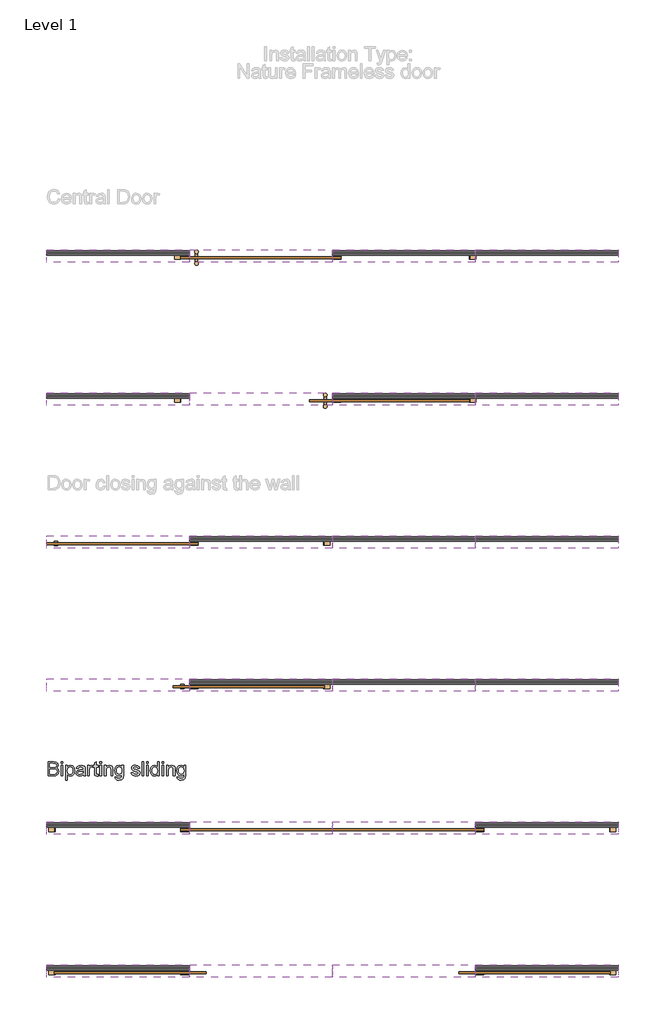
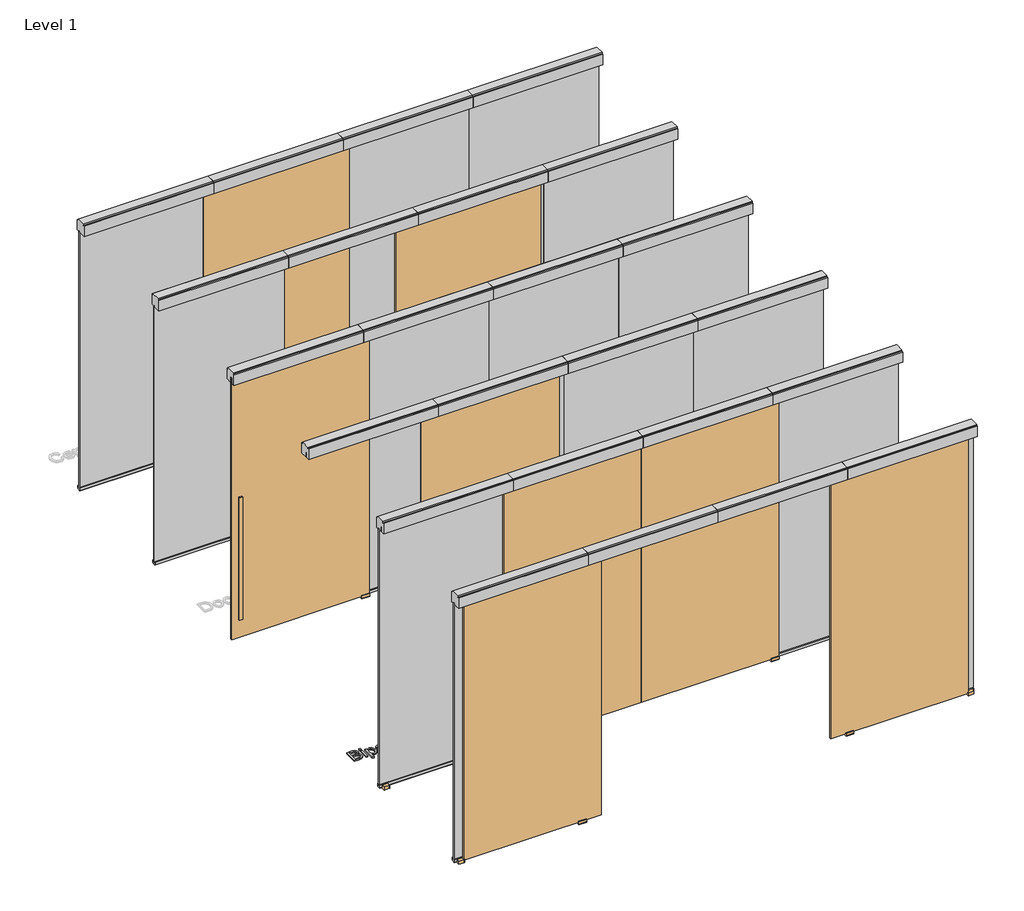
# One storey, part 1 of 3: 40 members, 16 plates, 8 doors, 1 proxy.
"""IFC4 building model written with IfcOpenShell, lengths in millimetres."""

from ifc_helpers import new_model, si_unit, origin, origin_with_axes, place, context, project, spatial, polyline, outline, extrude, transform, mapped, element, save
from components import sliding_door_9c017a84, sliding_door_46a8e8dc, sliding_door_2fb50057, sliding_door_c2c969da, sliding_door_ae4269e6, sliding_door_5c46f12c, sliding_door_cd3e74ab, sliding_door_913fe366, rectangular_mullion_f57d7881, rectangular_mullion_fa8072d7, rectangular_mullion_3a5f7653, rectangular_mullion_19e2d427, rectangular_mullion_22cbb824, rectangular_mullion_59f20ab0, rectangular_mullion_4657a7dc, rectangular_mullion_a82de65a, rectangular_mullion_c1fcce1e, rectangular_mullion_76ee8039, rectangular_mullion_a148459a, rectangular_mullion_7a5830f6, fixed_050bc72c, fixed_b180db11

model = new_model("IFC4")

# Units and contexts
model_context = context("Model", 3, world=origin())
ifc_project = project(units=[si_unit("LENGTHUNIT", "METRE", prefix="MILLI")], contexts=[model_context])

# Site, building, storey
site = spatial("IfcSite", under=ifc_project)
building = spatial("IfcBuilding", under=site)
storey = spatial("IfcBuildingStorey", under=building, Name="Level 1", Elevation=0.0)

# Proxy
placement = place(None, origin())
element("IfcBuildingElementProxy", 1, Name="100mm Arial", ObjectType="100mm Arial", at=placement, inside=storey, context=model_context, shape_type="SweptSolid", body=[
    extrude(outline(polyline([(-5984.3212144, -1777.2728011), (-5984.3212144, -1676.816491), (-5945.9879105, -1676.816491), (-5927.2136661, -1679.7718097), (-5916.1281553, -1688.8584949), (-5912.1182415, -1701.7098393), (-5915.4904931, -1713.4452749), (-5925.6808244, -1722.3357565), (-5913.3077266, -1731.7044846), (-5908.9789818, -1747.3272067), (-5911.9343005, -1760.8284759), (-5919.2551522, -1770.4424587), (-5930.1812475, -1775.5437557), (-5946.2822161, -1777.2728011), (-5984.3212144, -1777.2728011)]), holes=[polyline([(-5971.7641757, -1717.626867), (-5948.8328646, -1717.626867), (-5935.44196, -1716.5477464), (-5927.3853443, -1711.9001706), (-5924.6752803, -1703.7209275), (-5927.2014033, -1695.5294218), (-5934.4364159, -1690.6856422), (-5950.5741727, -1689.3735297), (-5971.7641757, -1689.3735297), (-5971.7641757, -1717.626867)]), polyline([(-5971.7641757, -1764.7157623), (-5946.012436, -1764.7157623), (-5936.6927588, -1764.225253), (-5928.8078214, -1761.4906635), (-5923.583897, -1755.9111199), (-5921.5360206, -1747.449834), (-5923.9395163, -1737.6886984), (-5931.7263519, -1731.8639002), (-5947.2387093, -1730.1839057), (-5971.7641757, -1730.1839057), (-5971.7641757, -1764.7157623)])]), origin_with_axes(), (0.0, 0.0, 1.0), 10.0),
    extrude(outline(polyline([(-5893.2826834, -1689.3735297), (-5893.2826834, -1676.816491), (-5880.7256446, -1676.816491), (-5880.7256446, -1689.3735297), (-5893.2826834, -1689.3735297)])), origin_with_axes(), (0.0, 0.0, 1.0), 10.0),
    extrude(outline(polyline([(-5893.2826834, -1777.2728011), (-5893.2826834, -1703.5001983), (-5880.7256446, -1703.5001983), (-5880.7256446, -1777.2728011), (-5893.2826834, -1777.2728011)])), origin_with_axes(), (0.0, 0.0, 1.0), 10.0),
    extrude(outline(polyline([(-5861.8900864, -1805.5261383), (-5861.8900864, -1703.5001983), (-5849.3330477, -1703.5001983), (-5849.3330477, -1715.8119824), (-5840.6510326, -1705.400922), (-5828.9278597, -1701.9305685), (-5813.010832, -1706.7866108), (-5802.6120343, -1720.4718211), (-5799.1048926, -1739.822414), (-5803.0657554, -1760.1662883), (-5814.5681991, -1774.0231768), (-5830.4484386, -1778.842431), (-5841.3745338, -1775.6173321), (-5849.3330477, -1767.4626146), (-5849.3330477, -1805.5261383), (-5861.8900864, -1805.5261383)]), holes=[polyline([(-5849.3330477, -1740.9751109), (-5847.97495, -1752.2323), (-5843.9006569, -1760.1049747), (-5837.8888519, -1764.7402878), (-5830.7182187, -1766.2853922), (-5823.4310895, -1764.6851055), (-5817.2660004, -1759.8842455), (-5813.0629486, -1751.7233965), (-5811.6619314, -1740.0431432), (-5813.0292261, -1728.8472678), (-5817.1311104, -1720.8642285), (-5823.1337183, -1716.0817626), (-5830.2031839, -1714.4876073), (-5837.3002407, -1716.1829301), (-5843.5327749, -1721.2688987), (-5847.8829795, -1729.5860975), (-5849.3330477, -1740.9751109)])]), origin_with_axes(), (0.0, 0.0, 1.0), 10.0),
    extrude(outline(polyline([(-5737.8893286, -1767.855022), (-5750.0662226, -1776.3653589), (-5763.5184409, -1778.842431), (-5774.0122748, -1777.3525089), (-5781.7531252, -1772.8827426), (-5786.526394, -1766.0953198), (-5788.1174837, -1757.652428), (-5785.713988, -1747.7196142), (-5779.3986804, -1740.5091271), (-5770.6063007, -1736.3888487), (-5759.7415191, -1734.5003878), (-5737.962905, -1730.1839057), (-5737.8893286, -1727.3880026), (-5741.3474194, -1718.1173763), (-5755.2288333, -1714.4876073), (-5767.9330249, -1716.9033657), (-5773.9908151, -1725.4750162), (-5786.5478538, -1723.9053863), (-5781.115463, -1711.6426532), (-5770.177105, -1704.4566915), (-5753.6101525, -1701.9305685), (-5738.3921007, -1704.1623859), (-5729.7959247, -1709.766455), (-5725.9454265, -1718.2890546), (-5725.3322898, -1729.2764635), (-5725.3322898, -1744.8991855), (-5724.6946277, -1766.7145878), (-5722.1930301, -1777.2728011), (-5734.7500689, -1777.2728011), (-5737.8893286, -1767.855022)]), holes=[polyline([(-5737.8893286, -1742.7409445), (-5758.1473638, -1746.5914427), (-5768.9508317, -1748.6270564), (-5773.8436623, -1751.9379944), (-5775.5604449, -1756.7695112), (-5771.8203113, -1763.5630654), (-5760.8451651, -1766.2853922), (-5748.1409735, -1763.2810226), (-5739.9494678, -1756.0092218), (-5737.962905, -1746.2971371), (-5737.8893286, -1742.7409445)])]), origin_with_axes(), (0.0, 0.0, 1.0), 10.0),
    extrude(outline(polyline([(-5634.2937588, -1766.800427), (-5632.7241289, -1777.6406831), (-5642.1173825, -1778.842431), (-5652.6388076, -1776.7577663), (-5657.8872574, -1771.2885873), (-5659.4078363, -1757.0392914), (-5659.4078363, -1716.0572371), (-5668.8256154, -1716.0572371), (-5668.8256154, -1705.8055922), (-5668.8256154, -1703.5001983), (-5659.4078363, -1703.5001983), (-5659.4078363, -1685.5720824), (-5646.8507975, -1678.1899171), (-5646.8507975, -1703.5001983), (-5634.2937588, -1703.5001983), (-5634.2937588, -1716.0572371), (-5646.8507975, -1716.0572371), (-5646.8507975, -1756.6714094), (-5646.1886099, -1763.1461325), (-5644.0426316, -1765.4392636), (-5639.7629378, -1766.2853922), (-5634.2937588, -1766.800427)])), origin_with_axes(), (0.0, 0.0, 1.0), 10.0),
    extrude(outline(polyline([(-5708.0663615, -1777.2728011), (-5708.0663615, -1703.5001983), (-5697.0789526, -1703.5001983), (-5697.0789526, -1714.4140309), (-5689.2798543, -1704.3585897), (-5681.4317051, -1701.9305685), (-5668.8256154, -1705.8055922), (-5673.0194701, -1717.0627812), (-5681.848638, -1714.4876073), (-5688.9487605, -1716.9646794), (-5693.4737091, -1723.8318099), (-5695.5093228, -1738.4980388), (-5695.5093228, -1777.2728011), (-5708.0663615, -1777.2728011)])), origin_with_axes(), (0.0, 0.0, 1.0), 10.0),
    extrude(outline(polyline([(-5621.73672, -1689.3735297), (-5621.73672, -1676.816491), (-5609.1796812, -1676.816491), (-5609.1796812, -1689.3735297), (-5621.73672, -1689.3735297)])), origin_with_axes(), (0.0, 0.0, 1.0), 10.0),
    extrude(outline(polyline([(-5621.73672, -1777.2728011), (-5621.73672, -1703.5001983), (-5609.1796812, -1703.5001983), (-5609.1796812, -1777.2728011), (-5621.73672, -1777.2728011)])), origin_with_axes(), (0.0, 0.0, 1.0), 10.0),
    extrude(outline(polyline([(-5590.3441231, -1777.2728011), (-5590.3441231, -1703.5001983), (-5577.7870843, -1703.5001983), (-5577.7870843, -1713.8008942), (-5568.1853642, -1704.8981499), (-5555.0765025, -1701.9305685), (-5543.2184395, -1704.3218015), (-5535.1250356, -1710.6003209), (-5531.3603765, -1719.8341589), (-5530.6981889, -1731.9742648), (-5530.6981889, -1777.2728011), (-5543.2552277, -1777.2728011), (-5543.2552277, -1733.6665219), (-5544.7022302, -1722.5564857), (-5549.8157899, -1716.6826365), (-5558.4364914, -1714.4876073), (-5572.0603879, -1719.417226), (-5576.3554102, -1726.5602681), (-5577.7870843, -1738.1301568), (-5577.7870843, -1777.2728011), (-5590.3441231, -1777.2728011)])), origin_with_axes(), (0.0, 0.0, 1.0), 10.0),
    extrude(outline(polyline([(-5516.5715203, -1783.5513205), (-5504.0144815, -1785.1209503), (-5499.9432541, -1791.7428263), (-5487.7540973, -1794.5387294), (-5474.902753, -1791.3749443), (-5468.7713864, -1782.4967254), (-5467.9129951, -1767.855022), (-5476.7544257, -1774.9183563), (-5487.5333682, -1777.2728011), (-5500.4797487, -1774.5320802), (-5510.1335854, -1766.3099177), (-5516.139259, -1754.2556509), (-5518.1411501, -1740.0186177), (-5514.5481693, -1720.5576602), (-5504.1493716, -1706.7866108), (-5488.1465048, -1701.9305685), (-5476.9444981, -1704.6774207), (-5467.9129951, -1712.9179774), (-5467.9129951, -1703.5001983), (-5455.3559563, -1703.5001983), (-5455.3559563, -1767.1928344), (-5458.7895216, -1791.5834107), (-5469.6665659, -1802.9264389), (-5487.999352, -1807.0957682), (-5499.682671, -1805.6273059), (-5508.8827866, -1801.221919), (-5514.7842269, -1793.8673448), (-5516.5715203, -1783.5513205)]), holes=[polyline([(-5505.5841114, -1739.1602264), (-5504.2444078, -1750.6779985), (-5500.225297, -1758.5966585), (-5494.1828352, -1763.1859864), (-5486.7730787, -1764.7157623), (-5479.4185045, -1763.1951834), (-5473.3453859, -1758.6334467), (-5469.2710928, -1750.8159543), (-5467.9129951, -1739.5281084), (-5469.3109467, -1728.641867), (-5473.5048014, -1720.8029149), (-5479.6668248, -1716.0664342), (-5486.9692824, -1714.4876073), (-5494.1399156, -1716.0419087), (-5500.1517206, -1720.704813), (-5504.2260137, -1728.4272692), (-5505.5841114, -1739.1602264)])]), origin_with_axes(), (0.0, 0.0, 1.0), 10.0),
    extrude(outline(polyline([(-5401.9885415, -1755.2979833), (-5389.4315028, -1753.7283534), (-5383.6189672, -1763.0480306), (-5370.301639, -1766.2853922), (-5357.4993456, -1763.3178108), (-5353.3300163, -1756.3525783), (-5357.5238711, -1750.7117211), (-5370.4487918, -1747.131003), (-5389.3579264, -1740.9873737), (-5397.6107458, -1733.8136747), (-5400.4189117, -1723.6846571), (-5398.1625688, -1714.3281917), (-5392.0066767, -1707.1790183), (-5384.0236374, -1703.4634101), (-5373.2201695, -1701.9305685), (-5357.940804, -1704.3953779), (-5348.2287193, -1711.0663047), (-5343.9122372, -1722.3357565), (-5356.469276, -1723.9053863), (-5361.1904283, -1716.9769421), (-5372.2391509, -1714.4876073), (-5384.2566294, -1716.8665775), (-5387.8618729, -1722.4093329), (-5386.3658195, -1726.0636274), (-5381.6814554, -1728.8350051), (-5370.8657247, -1731.5082809), (-5352.4348368, -1737.4189183), (-5343.875449, -1744.1143706), (-5340.7729775, -1755.0282031), (-5344.4150093, -1767.0456816), (-5354.9241716, -1775.7644849), (-5370.4733173, -1778.842431), (-5383.1345893, -1777.3586402), (-5392.3745587, -1772.9072681), (-5398.5427135, -1765.5373655), (-5401.9885415, -1755.2979833)])), origin_with_axes(), (0.0, 0.0, 1.0), 10.0),
    extrude(outline(polyline([(-5326.6463089, -1777.2728011), (-5326.6463089, -1676.816491), (-5314.0892702, -1676.816491), (-5314.0892702, -1777.2728011), (-5326.6463089, -1777.2728011)])), origin_with_axes(), (0.0, 0.0, 1.0), 10.0),
    extrude(outline(polyline([(-5295.253712, -1689.3735297), (-5295.253712, -1676.816491), (-5282.6966732, -1676.816491), (-5282.6966732, -1689.3735297), (-5295.253712, -1689.3735297)])), origin_with_axes(), (0.0, 0.0, 1.0), 10.0),
    extrude(outline(polyline([(-5295.253712, -1777.2728011), (-5295.253712, -1703.5001983), (-5282.6966732, -1703.5001983), (-5282.6966732, -1777.2728011), (-5295.253712, -1777.2728011)])), origin_with_axes(), (0.0, 0.0, 1.0), 10.0),
    extrude(outline(polyline([(-5218.3418495, -1777.2728011), (-5218.3418495, -1765.4270009), (-5226.6498513, -1775.4885734), (-5238.1339009, -1778.842431), (-5253.6830466, -1773.9863886), (-5264.6704555, -1760.4360685), (-5268.5700046, -1740.4600761), (-5264.9770238, -1720.4718211), (-5254.2103441, -1706.7130344), (-5238.1829518, -1701.9305685), (-5226.6069317, -1705.3518711), (-5218.3418495, -1714.2423526), (-5218.3418495, -1676.816491), (-5205.7848108, -1676.816491), (-5205.7848108, -1777.2728011), (-5218.3418495, -1777.2728011)]), holes=[polyline([(-5256.0129659, -1740.4110252), (-5254.5966202, -1751.7693818), (-5250.3475831, -1759.8474573), (-5244.173297, -1764.6759085), (-5236.981204, -1766.2853922), (-5229.7921766, -1764.7494849), (-5223.7742403, -1760.1417629), (-5219.6999472, -1752.3763871), (-5218.3418495, -1741.3675184), (-5219.7244727, -1729.3316458), (-5223.8723422, -1720.9868558), (-5230.0435627, -1716.1124194), (-5237.4962388, -1714.4876073), (-5244.7619082, -1716.0480401), (-5250.7154651, -1720.7293385), (-5254.6885907, -1728.7706257), (-5256.0129659, -1740.4110252)])]), origin_with_axes(), (0.0, 0.0, 1.0), 10.0),
    extrude(outline(polyline([(-5186.9492526, -1689.3735297), (-5186.9492526, -1676.816491), (-5174.3922139, -1676.816491), (-5174.3922139, -1689.3735297), (-5186.9492526, -1689.3735297)])), origin_with_axes(), (0.0, 0.0, 1.0), 10.0),
    extrude(outline(polyline([(-5186.9492526, -1777.2728011), (-5186.9492526, -1703.5001983), (-5174.3922139, -1703.5001983), (-5174.3922139, -1777.2728011), (-5186.9492526, -1777.2728011)])), origin_with_axes(), (0.0, 0.0, 1.0), 10.0),
    extrude(outline(polyline([(-5155.5566557, -1777.2728011), (-5155.5566557, -1703.5001983), (-5142.9996169, -1703.5001983), (-5142.9996169, -1713.8008942), (-5133.3978969, -1704.8981499), (-5120.2890351, -1701.9305685), (-5108.4309721, -1704.3218015), (-5100.3375682, -1710.6003209), (-5096.5729091, -1719.8341589), (-5095.9107216, -1731.9742648), (-5095.9107216, -1777.2728011), (-5108.4677603, -1777.2728011), (-5108.4677603, -1733.6665219), (-5109.9147628, -1722.5564857), (-5115.0283226, -1716.6826365), (-5123.649024, -1714.4876073), (-5137.2729205, -1719.417226), (-5141.5679428, -1726.5602681), (-5142.9996169, -1738.1301568), (-5142.9996169, -1777.2728011), (-5155.5566557, -1777.2728011)])), origin_with_axes(), (0.0, 0.0, 1.0), 10.0),
    extrude(outline(polyline([(-5081.7840529, -1783.5513205), (-5069.2270142, -1785.1209503), (-5065.1557868, -1791.7428263), (-5052.96663, -1794.5387294), (-5040.1152856, -1791.3749443), (-5033.983919, -1782.4967254), (-5033.1255277, -1767.855022), (-5041.9669583, -1774.9183563), (-5052.7459008, -1777.2728011), (-5065.6922813, -1774.5320802), (-5075.346118, -1766.3099177), (-5081.3517916, -1754.2556509), (-5083.3536828, -1740.0186177), (-5079.760702, -1720.5576602), (-5069.3619042, -1706.7866108), (-5053.3590374, -1701.9305685), (-5042.1570307, -1704.6774207), (-5033.1255277, -1712.9179774), (-5033.1255277, -1703.5001983), (-5020.5684889, -1703.5001983), (-5020.5684889, -1767.1928344), (-5024.0020542, -1791.5834107), (-5034.8790986, -1802.9264389), (-5053.2118846, -1807.0957682), (-5064.8952037, -1805.6273059), (-5074.0953192, -1801.221919), (-5079.9967596, -1793.8673448), (-5081.7840529, -1783.5513205)]), holes=[polyline([(-5070.796644, -1739.1602264), (-5069.4569404, -1750.6779985), (-5065.4378296, -1758.5966585), (-5059.3953678, -1763.1859864), (-5051.9856113, -1764.7157623), (-5044.6310371, -1763.1951834), (-5038.5579185, -1758.6334467), (-5034.4836254, -1750.8159543), (-5033.1255277, -1739.5281084), (-5034.5234793, -1728.641867), (-5038.717334, -1720.8029149), (-5044.8793575, -1716.0664342), (-5052.1818151, -1714.4876073), (-5059.3524483, -1716.0419087), (-5065.3642532, -1720.704813), (-5069.4385463, -1728.4272692), (-5070.796644, -1739.1602264)])]), origin_with_axes(), (0.0, 0.0, 1.0), 10.0),
])

# Doors
sliding_door_shape = sliding_door_9c017a84(model_context)
element("IfcDoor", 2, ObjectType="2019_EN_Panel_Klein_Nature_Single-Door : Sliding Door", at=placement, inside=storey, context=model_context, shape_type="MappedRepresentation", body=[
    mapped(sliding_door_shape, transform((-4495.3086233, 858.5464366, 0.0), x_axis=(1.0, 0.0, 0.0), y_axis=(0.0, 1.0, 0.0), z_axis=(0.0, 0.0, 1.0))),
])
sliding_door_2_shape = sliding_door_46a8e8dc(model_context)
element("IfcDoor", 3, ObjectType="2019_EN_Panel_Klein_Nature_Single-Door : Sliding Door", at=placement, inside=storey, context=model_context, shape_type="MappedRepresentation", body=[
    mapped(sliding_door_2_shape, transform((-5495.3086233, -141.4535634, 0.0), x_axis=(1.0, 0.0, 0.0), y_axis=(0.0, 1.0, 0.0), z_axis=(0.0, 0.0, 1.0))),
])
sliding_door_3_shape = sliding_door_2fb50057(model_context)
element("IfcDoor", 4, ObjectType="2019_EN_Panel_Klein_Nature_Single-Door : Sliding Door", at=placement, inside=storey, context=model_context, shape_type="MappedRepresentation", body=[
    mapped(sliding_door_3_shape, transform((-4495.3086233, -2141.4535634, 0.0), x_axis=(-1.0, 0.0, 0.0), y_axis=(0.0, -1.0, 0.0), z_axis=(0.0, 0.0, 1.0))),
])
sliding_door_4_shape = sliding_door_c2c969da(model_context)
element("IfcDoor", 5, ObjectType="2019_EN_Panel_Klein_Nature_Single-Door : Sliding Door", at=placement, inside=storey, context=model_context, shape_type="MappedRepresentation", body=[
    mapped(sliding_door_4_shape, transform((-3495.3086234, -2141.4535634, 0.0), x_axis=(1.0, 0.0, 0.0), y_axis=(0.0, 1.0, 0.0), z_axis=(0.0, 0.0, 1.0))),
])
sliding_door_5_shape = sliding_door_ae4269e6(model_context)
element("IfcDoor", 6, ObjectType="2019_EN_Panel_Klein_Nature_Single-Door : Sliding Door", at=placement, inside=storey, context=model_context, shape_type="MappedRepresentation", body=[
    mapped(sliding_door_5_shape, transform((-4495.3086233, 1858.5464366, 0.0), x_axis=(1.0, 0.0, 0.0), y_axis=(0.0, 1.0, 0.0), z_axis=(0.0, 0.0, 1.0))),
])
sliding_door_6_shape = sliding_door_5c46f12c(model_context)
element("IfcDoor", 7, ObjectType="2019_EN_Panel_Klein_Nature_Single-Door : Sliding Door", at=placement, inside=storey, context=model_context, shape_type="MappedRepresentation", body=[
    mapped(sliding_door_6_shape, transform((-5495.3086233, -1141.4535634, 0.0), x_axis=(1.0, 0.0, 0.0), y_axis=(0.0, 1.0, 0.0), z_axis=(0.0, 0.0, 1.0))),
])
sliding_door_7_shape = sliding_door_cd3e74ab(model_context)
element("IfcDoor", 8, ObjectType="2019_EN_Panel_Klein_Nature_Single-Door : Sliding Door", at=placement, inside=storey, context=model_context, shape_type="MappedRepresentation", body=[
    mapped(sliding_door_7_shape, transform((-4495.3086233, -3141.4535634, 0.0), x_axis=(-1.0, 0.0, 0.0), y_axis=(0.0, -1.0, 0.0), z_axis=(0.0, 0.0, 1.0))),
])
sliding_door_8_shape = sliding_door_913fe366(model_context)
element("IfcDoor", 9, ObjectType="2019_EN_Panel_Klein_Nature_Single-Door : Sliding Door", at=placement, inside=storey, context=model_context, shape_type="MappedRepresentation", body=[
    mapped(sliding_door_8_shape, transform((-3495.3086234, -3141.4535634, 0.0), x_axis=(1.0, 0.0, 0.0), y_axis=(0.0, 1.0, 0.0), z_axis=(0.0, 0.0, 1.0))),
])

# Members
rectangular_mullion_shape = rectangular_mullion_f57d7881(model_context)
element("IfcMember", 10, ObjectType="Rectangular Mullion : Klein_Nature_Profile-Top-Panel", at=placement, inside=storey, context=model_context, shape_type="MappedRepresentation", body=[
    mapped(rectangular_mullion_shape, transform((-5995.3086234, 858.5464366, 2200.0), x_axis=(0.0, 0.0, 1.0), y_axis=(0.0, 1.0, 0.0), z_axis=(-1.0, 0.0, 0.0))),
])
element("IfcMember", 11, ObjectType="Rectangular Mullion : Klein_Nature_Profile-Top-Panel", at=placement, inside=storey, context=model_context, shape_type="MappedRepresentation", body=[
    mapped(rectangular_mullion_shape, transform((-2995.3086235, 858.5464366, 2200.0), x_axis=(0.0, 0.0, 1.0), y_axis=(0.0, 1.0, 0.0), z_axis=(-1.0, 0.0, 0.0))),
])
element("IfcMember", 12, ObjectType="Rectangular Mullion : Klein_Nature_Profile-Top-Panel", at=placement, inside=storey, context=model_context, shape_type="MappedRepresentation", body=[
    mapped(rectangular_mullion_shape, transform((-5995.3086234, 1858.5464366, 2200.0), x_axis=(0.0, 0.0, 1.0), y_axis=(0.0, 1.0, 0.0), z_axis=(-1.0, 0.0, 0.0))),
])
element("IfcMember", 13, ObjectType="Rectangular Mullion : Klein_Nature_Profile-Top-Panel", at=placement, inside=storey, context=model_context, shape_type="MappedRepresentation", body=[
    mapped(rectangular_mullion_shape, transform((-2995.3086235, 1858.5464366, 2200.0), x_axis=(0.0, 0.0, 1.0), y_axis=(0.0, 1.0, 0.0), z_axis=(-1.0, 0.0, 0.0))),
])
rectangular_mullion_2_shape = rectangular_mullion_fa8072d7(model_context)
element("IfcMember", 14, ObjectType="Rectangular Mullion : Klein_Nature_Profile-Top-Pocket", at=placement, inside=storey, context=model_context, shape_type="MappedRepresentation", body=[
    mapped(rectangular_mullion_2_shape, transform((-3995.3086234, 858.5464366, 2200.0), x_axis=(0.0, 0.0, 1.0), y_axis=(0.0, 1.0, 0.0), z_axis=(-1.0, 0.0, 0.0))),
])
element("IfcMember", 15, ObjectType="Rectangular Mullion : Klein_Nature_Profile-Top-Pocket", at=placement, inside=storey, context=model_context, shape_type="MappedRepresentation", body=[
    mapped(rectangular_mullion_2_shape, transform((-3995.3086234, 1858.5464366, 2200.0), x_axis=(0.0, 0.0, 1.0), y_axis=(0.0, 1.0, 0.0), z_axis=(-1.0, 0.0, 0.0))),
])
rectangular_mullion_3_shape = rectangular_mullion_3a5f7653(model_context)
element("IfcMember", 16, ObjectType="Rectangular Mullion : Klein_Nature_Profile-Top-Door", at=placement, inside=storey, context=model_context, shape_type="MappedRepresentation", body=[
    mapped(rectangular_mullion_3_shape, transform((-4995.3086232, 858.5464366, 2200.0), x_axis=(0.0, 0.0, 1.0), y_axis=(0.0, 1.0, 0.0), z_axis=(-1.0, 0.0, 0.0))),
])
element("IfcMember", 17, ObjectType="Rectangular Mullion : Klein_Nature_Profile-Top-Door", at=placement, inside=storey, context=model_context, shape_type="MappedRepresentation", body=[
    mapped(rectangular_mullion_3_shape, transform((-4995.3086232, 1858.5464366, 2200.0), x_axis=(0.0, 0.0, 1.0), y_axis=(0.0, 1.0, 0.0), z_axis=(-1.0, 0.0, 0.0))),
])
rectangular_mullion_4_shape = rectangular_mullion_19e2d427(model_context)
element("IfcMember", 18, ObjectType="Rectangular Mullion : Klein_Nature_Profile-Bottom-Panel", at=placement, inside=storey, context=model_context, shape_type="MappedRepresentation", body=[
    mapped(rectangular_mullion_4_shape, transform((-1995.3086234, 858.5464366, 0.0), x_axis=(0.0, 0.0, -1.0), y_axis=(0.0, 1.0, 0.0), z_axis=(1.0, 0.0, 0.0))),
])
element("IfcMember", 19, ObjectType="Rectangular Mullion : Klein_Nature_Profile-Bottom-Panel", at=placement, inside=storey, context=model_context, shape_type="MappedRepresentation", body=[
    mapped(rectangular_mullion_4_shape, transform((-1995.3086234, 1858.5464366, 0.0), x_axis=(0.0, 0.0, -1.0), y_axis=(0.0, 1.0, 0.0), z_axis=(1.0, 0.0, 0.0))),
])
rectangular_mullion_5_shape = rectangular_mullion_22cbb824(model_context)
element("IfcMember", 20, ObjectType="Rectangular Mullion : Klein_Nature_Profile-Bottom-Panel", at=placement, inside=storey, context=model_context, shape_type="MappedRepresentation", body=[
    mapped(rectangular_mullion_5_shape, transform((-2995.3086235, 858.5464366, 0.0), x_axis=(0.0, 0.0, -1.0), y_axis=(0.0, 1.0, 0.0), z_axis=(1.0, 0.0, 0.0))),
])
element("IfcMember", 21, ObjectType="Rectangular Mullion : Klein_Nature_Profile-Bottom-Panel", at=placement, inside=storey, context=model_context, shape_type="MappedRepresentation", body=[
    mapped(rectangular_mullion_5_shape, transform((-2995.3086235, 1858.5464366, 0.0), x_axis=(0.0, 0.0, -1.0), y_axis=(0.0, 1.0, 0.0), z_axis=(1.0, 0.0, 0.0))),
])
element("IfcMember", 22, ObjectType="Rectangular Mullion : Klein_Nature_Profile-Bottom-Panel", at=placement, inside=storey, context=model_context, shape_type="MappedRepresentation", body=[
    mapped(rectangular_mullion_4_shape, transform((-4995.3086232, 858.5464366, 0.0), x_axis=(0.0, 0.0, -1.0), y_axis=(0.0, 1.0, 0.0), z_axis=(1.0, 0.0, 0.0))),
])
element("IfcMember", 23, ObjectType="Rectangular Mullion : Klein_Nature_Profile-Bottom-Panel", at=placement, inside=storey, context=model_context, shape_type="MappedRepresentation", body=[
    mapped(rectangular_mullion_4_shape, transform((-4995.3086232, 1858.5464366, 0.0), x_axis=(0.0, 0.0, -1.0), y_axis=(0.0, 1.0, 0.0), z_axis=(1.0, 0.0, 0.0))),
])
rectangular_mullion_6_shape = rectangular_mullion_59f20ab0(model_context)
element("IfcMember", 24, ObjectType="Rectangular Mullion : Klein_Nature_Profile-Top-Panel", at=placement, inside=storey, context=model_context, shape_type="MappedRepresentation", body=[
    mapped(rectangular_mullion_6_shape, transform((-1995.3086234, -141.4535634, 2200.0), x_axis=(0.0, 0.0, 1.0), y_axis=(0.0, -1.0, 0.0), z_axis=(1.0, 0.0, 0.0))),
])
element("IfcMember", 25, ObjectType="Rectangular Mullion : Klein_Nature_Profile-Top-Panel", at=placement, inside=storey, context=model_context, shape_type="MappedRepresentation", body=[
    mapped(rectangular_mullion_6_shape, transform((-1995.3086234, -1141.4535634, 2200.0), x_axis=(0.0, 0.0, 1.0), y_axis=(0.0, -1.0, 0.0), z_axis=(1.0, 0.0, 0.0))),
])
rectangular_mullion_7_shape = rectangular_mullion_4657a7dc(model_context)
element("IfcMember", 26, ObjectType="Rectangular Mullion : Klein_Nature_Profile-Top-Door", at=placement, inside=storey, context=model_context, shape_type="MappedRepresentation", body=[
    mapped(rectangular_mullion_7_shape, transform((-4995.3086232, -141.4535634, 2200.0), x_axis=(0.0, 0.0, 1.0), y_axis=(0.0, -1.0, 0.0), z_axis=(1.0, 0.0, 0.0))),
])
element("IfcMember", 27, ObjectType="Rectangular Mullion : Klein_Nature_Profile-Top-Door", at=placement, inside=storey, context=model_context, shape_type="MappedRepresentation", body=[
    mapped(rectangular_mullion_7_shape, transform((-4995.3086232, -1141.4535634, 2200.0), x_axis=(0.0, 0.0, 1.0), y_axis=(0.0, -1.0, 0.0), z_axis=(1.0, 0.0, 0.0))),
])
rectangular_mullion_8_shape = rectangular_mullion_a82de65a(model_context)
element("IfcMember", 28, ObjectType="Rectangular Mullion : Klein_Nature_Profile-Top-Pocket", at=placement, inside=storey, context=model_context, shape_type="MappedRepresentation", body=[
    mapped(rectangular_mullion_8_shape, transform((-3995.3086234, -141.4535634, 2200.0), x_axis=(0.0, 0.0, 1.0), y_axis=(0.0, -1.0, 0.0), z_axis=(1.0, 0.0, 0.0))),
])
element("IfcMember", 29, ObjectType="Rectangular Mullion : Klein_Nature_Profile-Top-Pocket", at=placement, inside=storey, context=model_context, shape_type="MappedRepresentation", body=[
    mapped(rectangular_mullion_8_shape, transform((-1995.3086234, -2141.4535634, 2200.0), x_axis=(0.0, 0.0, 1.0), y_axis=(0.0, -1.0, 0.0), z_axis=(1.0, 0.0, 0.0))),
])
element("IfcMember", 30, ObjectType="Rectangular Mullion : Klein_Nature_Profile-Top-Pocket", at=placement, inside=storey, context=model_context, shape_type="MappedRepresentation", body=[
    mapped(rectangular_mullion_8_shape, transform((-4995.3086232, -2141.4535634, 2200.0), x_axis=(0.0, 0.0, 1.0), y_axis=(0.0, -1.0, 0.0), z_axis=(1.0, 0.0, 0.0))),
])
element("IfcMember", 31, ObjectType="Rectangular Mullion : Klein_Nature_Profile-Top-Pocket", at=placement, inside=storey, context=model_context, shape_type="MappedRepresentation", body=[
    mapped(rectangular_mullion_8_shape, transform((-3995.3086234, -1141.4535634, 2200.0), x_axis=(0.0, 0.0, 1.0), y_axis=(0.0, -1.0, 0.0), z_axis=(1.0, 0.0, 0.0))),
])
element("IfcMember", 32, ObjectType="Rectangular Mullion : Klein_Nature_Profile-Top-Pocket", at=placement, inside=storey, context=model_context, shape_type="MappedRepresentation", body=[
    mapped(rectangular_mullion_8_shape, transform((-1995.3086234, -3141.4535634, 2200.0), x_axis=(0.0, 0.0, 1.0), y_axis=(0.0, -1.0, 0.0), z_axis=(1.0, 0.0, 0.0))),
])
element("IfcMember", 33, ObjectType="Rectangular Mullion : Klein_Nature_Profile-Top-Pocket", at=placement, inside=storey, context=model_context, shape_type="MappedRepresentation", body=[
    mapped(rectangular_mullion_8_shape, transform((-4995.3086232, -3141.4535634, 2200.0), x_axis=(0.0, 0.0, 1.0), y_axis=(0.0, -1.0, 0.0), z_axis=(1.0, 0.0, 0.0))),
])
rectangular_mullion_9_shape = rectangular_mullion_c1fcce1e(model_context)
element("IfcMember", 34, ObjectType="Rectangular Mullion : Klein_Nature_Profile-Top-Panel", at=placement, inside=storey, context=model_context, shape_type="MappedRepresentation", body=[
    mapped(rectangular_mullion_9_shape, transform((-2995.3086235, -141.4535634, 2200.0), x_axis=(0.0, 0.0, 1.0), y_axis=(0.0, -1.0, 0.0), z_axis=(1.0, 0.0, 0.0))),
])
element("IfcMember", 35, ObjectType="Rectangular Mullion : Klein_Nature_Profile-Top-Panel", at=placement, inside=storey, context=model_context, shape_type="MappedRepresentation", body=[
    mapped(rectangular_mullion_9_shape, transform((-2995.3086235, -1141.4535634, 2200.0), x_axis=(0.0, 0.0, 1.0), y_axis=(0.0, -1.0, 0.0), z_axis=(1.0, 0.0, 0.0))),
])
rectangular_mullion_10_shape = rectangular_mullion_76ee8039(model_context)
element("IfcMember", 36, ObjectType="Rectangular Mullion : Klein_Nature_Profile-Bottom-Panel", at=placement, inside=storey, context=model_context, shape_type="MappedRepresentation", body=[
    mapped(rectangular_mullion_10_shape, transform((-4995.3086232, -141.4535634, 0.0), x_axis=(0.0, 0.0, -1.0), y_axis=(0.0, -1.0, 0.0), z_axis=(-1.0, 0.0, 0.0))),
])
element("IfcMember", 37, ObjectType="Rectangular Mullion : Klein_Nature_Profile-Bottom-Panel", at=placement, inside=storey, context=model_context, shape_type="MappedRepresentation", body=[
    mapped(rectangular_mullion_10_shape, transform((-4995.3086232, -1141.4535634, 0.0), x_axis=(0.0, 0.0, -1.0), y_axis=(0.0, -1.0, 0.0), z_axis=(-1.0, 0.0, 0.0))),
])
element("IfcMember", 38, ObjectType="Rectangular Mullion : Klein_Nature_Profile-Bottom-Panel", at=placement, inside=storey, context=model_context, shape_type="MappedRepresentation", body=[
    mapped(rectangular_mullion_10_shape, transform((-3995.3086234, -141.4535634, 0.0), x_axis=(0.0, 0.0, -1.0), y_axis=(0.0, -1.0, 0.0), z_axis=(-1.0, 0.0, 0.0))),
])
element("IfcMember", 39, ObjectType="Rectangular Mullion : Klein_Nature_Profile-Bottom-Panel", at=placement, inside=storey, context=model_context, shape_type="MappedRepresentation", body=[
    mapped(rectangular_mullion_10_shape, transform((-3995.3086234, -1141.4535634, 0.0), x_axis=(0.0, 0.0, -1.0), y_axis=(0.0, -1.0, 0.0), z_axis=(-1.0, 0.0, 0.0))),
])
rectangular_mullion_11_shape = rectangular_mullion_a148459a(model_context)
element("IfcMember", 40, ObjectType="Rectangular Mullion : Klein_Nature_Profile-Bottom-Panel", at=placement, inside=storey, context=model_context, shape_type="MappedRepresentation", body=[
    mapped(rectangular_mullion_11_shape, transform((-2995.3086235, -141.4535634, 0.0), x_axis=(0.0, 0.0, -1.0), y_axis=(0.0, -1.0, 0.0), z_axis=(-1.0, 0.0, 0.0))),
])
element("IfcMember", 41, ObjectType="Rectangular Mullion : Klein_Nature_Profile-Bottom-Panel", at=placement, inside=storey, context=model_context, shape_type="MappedRepresentation", body=[
    mapped(rectangular_mullion_11_shape, transform((-2995.3086235, -1141.4535634, 0.0), x_axis=(0.0, 0.0, -1.0), y_axis=(0.0, -1.0, 0.0), z_axis=(-1.0, 0.0, 0.0))),
])
rectangular_mullion_12_shape = rectangular_mullion_7a5830f6(model_context)
element("IfcMember", 42, ObjectType="Rectangular Mullion : Klein_Nature_Profile-Top-Door", at=placement, inside=storey, context=model_context, shape_type="MappedRepresentation", body=[
    mapped(rectangular_mullion_12_shape, transform((-3995.3086234, -2141.4535634, 2200.0), x_axis=(0.0, 0.0, 1.0), y_axis=(0.0, -1.0, 0.0), z_axis=(1.0, 0.0, 0.0))),
])
element("IfcMember", 43, ObjectType="Rectangular Mullion : Klein_Nature_Profile-Top-Door", at=placement, inside=storey, context=model_context, shape_type="MappedRepresentation", body=[
    mapped(rectangular_mullion_12_shape, transform((-3995.3086234, -3141.4535634, 2200.0), x_axis=(0.0, 0.0, 1.0), y_axis=(0.0, -1.0, 0.0), z_axis=(1.0, 0.0, 0.0))),
])
element("IfcMember", 44, ObjectType="Rectangular Mullion : Klein_Nature_Profile-Top-Door", at=placement, inside=storey, context=model_context, shape_type="MappedRepresentation", body=[
    mapped(rectangular_mullion_12_shape, transform((-2995.3086235, -2141.4535634, 2200.0), x_axis=(0.0, 0.0, 1.0), y_axis=(0.0, -1.0, 0.0), z_axis=(1.0, 0.0, 0.0))),
])
element("IfcMember", 45, ObjectType="Rectangular Mullion : Klein_Nature_Profile-Top-Door", at=placement, inside=storey, context=model_context, shape_type="MappedRepresentation", body=[
    mapped(rectangular_mullion_12_shape, transform((-2995.3086235, -3141.4535634, 2200.0), x_axis=(0.0, 0.0, 1.0), y_axis=(0.0, -1.0, 0.0), z_axis=(1.0, 0.0, 0.0))),
])
element("IfcMember", 46, ObjectType="Rectangular Mullion : Klein_Nature_Profile-Bottom-Panel", at=placement, inside=storey, context=model_context, shape_type="MappedRepresentation", body=[
    mapped(rectangular_mullion_11_shape, transform((-5995.3086234, -2141.4535634, 0.0), x_axis=(0.0, 0.0, -1.0), y_axis=(0.0, -1.0, 0.0), z_axis=(-1.0, 0.0, 0.0))),
])
element("IfcMember", 47, ObjectType="Rectangular Mullion : Klein_Nature_Profile-Bottom-Panel", at=placement, inside=storey, context=model_context, shape_type="MappedRepresentation", body=[
    mapped(rectangular_mullion_11_shape, transform((-2995.3086235, -2141.4535634, 0.0), x_axis=(0.0, 0.0, -1.0), y_axis=(0.0, -1.0, 0.0), z_axis=(-1.0, 0.0, 0.0))),
])
element("IfcMember", 48, ObjectType="Rectangular Mullion : Klein_Nature_Profile-Bottom-Panel", at=placement, inside=storey, context=model_context, shape_type="MappedRepresentation", body=[
    mapped(rectangular_mullion_11_shape, transform((-5995.3086234, -3141.4535634, 0.0), x_axis=(0.0, 0.0, -1.0), y_axis=(0.0, -1.0, 0.0), z_axis=(-1.0, 0.0, 0.0))),
])
element("IfcMember", 49, ObjectType="Rectangular Mullion : Klein_Nature_Profile-Bottom-Panel", at=placement, inside=storey, context=model_context, shape_type="MappedRepresentation", body=[
    mapped(rectangular_mullion_11_shape, transform((-2995.3086235, -3141.4535634, 0.0), x_axis=(0.0, 0.0, -1.0), y_axis=(0.0, -1.0, 0.0), z_axis=(-1.0, 0.0, 0.0))),
])

# Plates
fixed_shape = fixed_050bc72c(model_context)
element("IfcPlate", 50, ObjectType="2019_Panel_Klein_Nature_Fixed : Fixed", at=placement, inside=storey, context=model_context, shape_type="MappedRepresentation", body=[
    mapped(fixed_shape, transform((-2495.3086234, 858.5464366, 15.0), x_axis=(-1.0, 0.0, 0.0), y_axis=(0.0, -1.0, 0.0), z_axis=(0.0, 0.0, 1.0))),
])
element("IfcPlate", 51, ObjectType="2019_Panel_Klein_Nature_Fixed : Fixed", at=placement, inside=storey, context=model_context, shape_type="MappedRepresentation", body=[
    mapped(fixed_shape, transform((-3495.3086234, 858.5464366, 15.0), x_axis=(-1.0, 0.0, 0.0), y_axis=(0.0, -1.0, 0.0), z_axis=(0.0, 0.0, 1.0))),
])
element("IfcPlate", 52, ObjectType="2019_Panel_Klein_Nature_Fixed : Fixed", at=placement, inside=storey, context=model_context, shape_type="MappedRepresentation", body=[
    mapped(fixed_shape, transform((-5495.3086233, 858.5464366, 15.0), x_axis=(-1.0, 0.0, 0.0), y_axis=(0.0, -1.0, 0.0), z_axis=(0.0, 0.0, 1.0))),
])
element("IfcPlate", 53, ObjectType="2019_Panel_Klein_Nature_Fixed : Fixed", at=placement, inside=storey, context=model_context, shape_type="MappedRepresentation", body=[
    mapped(fixed_shape, transform((-2495.3086234, 1858.5464366, 15.0), x_axis=(-1.0, 0.0, 0.0), y_axis=(0.0, -1.0, 0.0), z_axis=(0.0, 0.0, 1.0))),
])
element("IfcPlate", 54, ObjectType="2019_Panel_Klein_Nature_Fixed : Fixed", at=placement, inside=storey, context=model_context, shape_type="MappedRepresentation", body=[
    mapped(fixed_shape, transform((-3495.3086234, 1858.5464366, 15.0), x_axis=(-1.0, 0.0, 0.0), y_axis=(0.0, -1.0, 0.0), z_axis=(0.0, 0.0, 1.0))),
])
element("IfcPlate", 55, ObjectType="2019_Panel_Klein_Nature_Fixed : Fixed", at=placement, inside=storey, context=model_context, shape_type="MappedRepresentation", body=[
    mapped(fixed_shape, transform((-5495.3086233, 1858.5464366, 15.0), x_axis=(-1.0, 0.0, 0.0), y_axis=(0.0, -1.0, 0.0), z_axis=(0.0, 0.0, 1.0))),
])
fixed_2_shape = fixed_b180db11(model_context)
element("IfcPlate", 56, ObjectType="2019_Panel_Klein_Nature_Fixed : Fixed", at=placement, inside=storey, context=model_context, shape_type="MappedRepresentation", body=[
    mapped(fixed_2_shape, transform((-4495.3086233, -141.4535634, 15.0), x_axis=(1.0, 0.0, 0.0), y_axis=(0.0, 1.0, 0.0), z_axis=(0.0, 0.0, 1.0))),
])
element("IfcPlate", 57, ObjectType="2019_Panel_Klein_Nature_Fixed : Fixed", at=placement, inside=storey, context=model_context, shape_type="MappedRepresentation", body=[
    mapped(fixed_2_shape, transform((-3495.3086234, -141.4535634, 15.0), x_axis=(1.0, 0.0, 0.0), y_axis=(0.0, 1.0, 0.0), z_axis=(0.0, 0.0, 1.0))),
])
element("IfcPlate", 58, ObjectType="2019_Panel_Klein_Nature_Fixed : Fixed", at=placement, inside=storey, context=model_context, shape_type="MappedRepresentation", body=[
    mapped(fixed_2_shape, transform((-2495.3086234, -141.4535634, 15.0), x_axis=(1.0, 0.0, 0.0), y_axis=(0.0, 1.0, 0.0), z_axis=(0.0, 0.0, 1.0))),
])
element("IfcPlate", 59, ObjectType="2019_Panel_Klein_Nature_Fixed : Fixed", at=placement, inside=storey, context=model_context, shape_type="MappedRepresentation", body=[
    mapped(fixed_2_shape, transform((-5495.3086233, -2141.4535634, 15.0), x_axis=(1.0, 0.0, 0.0), y_axis=(0.0, 1.0, 0.0), z_axis=(0.0, 0.0, 1.0))),
])
element("IfcPlate", 60, ObjectType="2019_Panel_Klein_Nature_Fixed : Fixed", at=placement, inside=storey, context=model_context, shape_type="MappedRepresentation", body=[
    mapped(fixed_2_shape, transform((-2495.3086234, -2141.4535634, 15.0), x_axis=(1.0, 0.0, 0.0), y_axis=(0.0, 1.0, 0.0), z_axis=(0.0, 0.0, 1.0))),
])
element("IfcPlate", 61, ObjectType="2019_Panel_Klein_Nature_Fixed : Fixed", at=placement, inside=storey, context=model_context, shape_type="MappedRepresentation", body=[
    mapped(fixed_2_shape, transform((-4495.3086233, -1141.4535634, 15.0), x_axis=(1.0, 0.0, 0.0), y_axis=(0.0, 1.0, 0.0), z_axis=(0.0, 0.0, 1.0))),
])
element("IfcPlate", 62, ObjectType="2019_Panel_Klein_Nature_Fixed : Fixed", at=placement, inside=storey, context=model_context, shape_type="MappedRepresentation", body=[
    mapped(fixed_2_shape, transform((-3495.3086234, -1141.4535634, 15.0), x_axis=(1.0, 0.0, 0.0), y_axis=(0.0, 1.0, 0.0), z_axis=(0.0, 0.0, 1.0))),
])
element("IfcPlate", 63, ObjectType="2019_Panel_Klein_Nature_Fixed : Fixed", at=placement, inside=storey, context=model_context, shape_type="MappedRepresentation", body=[
    mapped(fixed_2_shape, transform((-2495.3086234, -1141.4535634, 15.0), x_axis=(1.0, 0.0, 0.0), y_axis=(0.0, 1.0, 0.0), z_axis=(0.0, 0.0, 1.0))),
])
element("IfcPlate", 64, ObjectType="2019_Panel_Klein_Nature_Fixed : Fixed", at=placement, inside=storey, context=model_context, shape_type="MappedRepresentation", body=[
    mapped(fixed_2_shape, transform((-5495.3086233, -3141.4535634, 15.0), x_axis=(1.0, 0.0, 0.0), y_axis=(0.0, 1.0, 0.0), z_axis=(0.0, 0.0, 1.0))),
])
element("IfcPlate", 65, ObjectType="2019_Panel_Klein_Nature_Fixed : Fixed", at=placement, inside=storey, context=model_context, shape_type="MappedRepresentation", body=[
    mapped(fixed_2_shape, transform((-2495.3086234, -3141.4535634, 15.0), x_axis=(1.0, 0.0, 0.0), y_axis=(0.0, 1.0, 0.0), z_axis=(0.0, 0.0, 1.0))),
])

save(model, "model.ifc")
